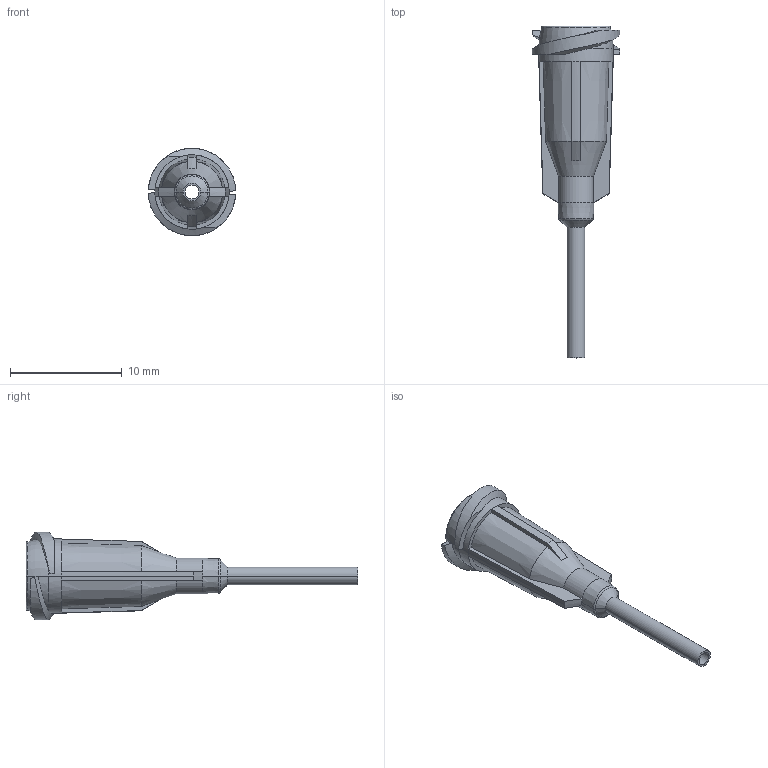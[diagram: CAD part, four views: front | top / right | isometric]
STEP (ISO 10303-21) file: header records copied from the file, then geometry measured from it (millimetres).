
FILE_DESCRIPTION (( 'STEP AP214' ), '1' );
FILE_NAME ('NORDSONEFD-7018084 TIP 15GA PPS 049 X 1-2 AM.STEP', '2018-12-27T09:40:01', ( '' ), ( '' ), 'SwSTEP 2.0', 'SolidWorks 2018', '' );
FILE_SCHEMA (( 'AUTOMOTIVE_DESIGN' ));
Length unit declared in the file: inch
Products named in the file (1): NORDSONEFD-7018084 TIP 15GA PPS 049 X 1-2 AM
Bounding box: 7.82 x 29.69 x 7.82 mm (x, y, z)
Volume: 263.7 mm3; surface area: 673.8 mm2
Topology: 1 solids, 1 shells, 106 faces, 244 edges, 144 vertices
Faces by surface type: torus 28, plane 26, cone 24, cylinder 16, bspline 12
Entity records: 3487 total; most frequent: CARTESIAN_POINT 1029, DIRECTION 506, ORIENTED_EDGE 488, EDGE_CURVE 244, AXIS2_PLACEMENT_3D 223, VERTEX_POINT 144, CIRCLE 128, EDGE_LOOP 112
